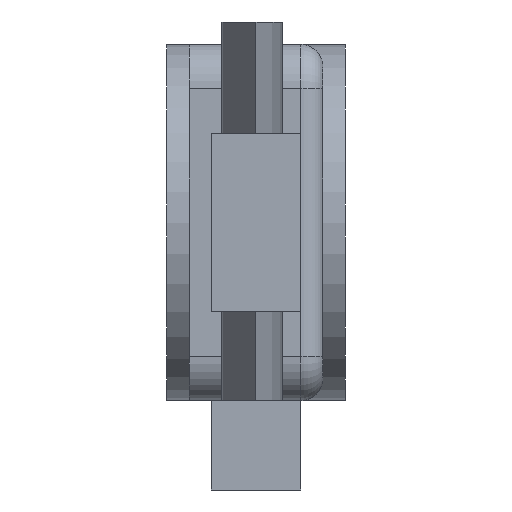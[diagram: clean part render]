
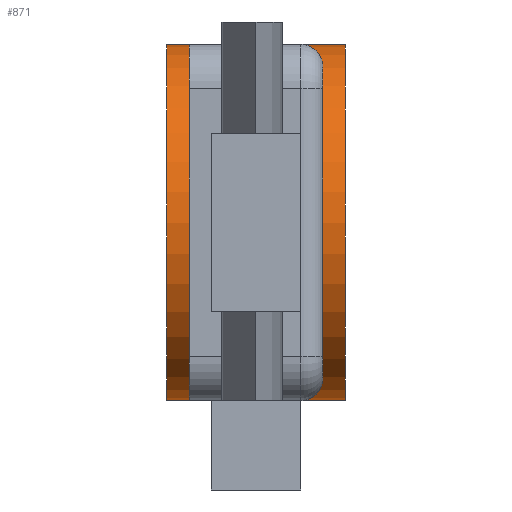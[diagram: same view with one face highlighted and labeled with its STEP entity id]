
A CAD part, left-side view. The second image highlights one B-rep face of the part: STEP entity #871.
In plain terms, the highlighted cylindrical face has radius 40 mm (diameter 80 mm), a partial arc.
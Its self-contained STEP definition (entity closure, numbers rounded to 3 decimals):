
#16 = DIRECTION ( 'NONE',  ( 0., 0., 1. ) ) ;
#65 = DIRECTION ( 'NONE',  ( 0., 1., 0. ) ) ;
#76 = ORIENTED_EDGE ( 'NONE', *, *, #341, .T. ) ;
#77 = DIRECTION ( 'NONE',  ( 0., 1., 0. ) ) ;
#80 = EDGE_LOOP ( 'NONE', ( #173, #856, #875, #76 ) ) ;
#88 = EDGE_CURVE ( 'NONE', #324, #394, #703, .T. ) ;
#151 = CARTESIAN_POINT ( 'NONE',  ( 500., -20., 40. ) ) ;
#161 = CARTESIAN_POINT ( 'NONE',  ( 500., -20., 40. ) ) ;
#173 = ORIENTED_EDGE ( 'NONE', *, *, #711, .F. ) ;
#223 = VERTEX_POINT ( 'NONE', #1008 ) ;
#258 = CARTESIAN_POINT ( 'NONE',  ( 500., -20., 0. ) ) ;
#302 = EDGE_CURVE ( 'NONE', #324, #223, #940, .T. ) ;
#324 = VERTEX_POINT ( 'NONE', #374 ) ;
#339 = AXIS2_PLACEMENT_3D ( 'NONE', #411, #710, #16 ) ;
#341 = EDGE_CURVE ( 'NONE', #394, #624, #850, .T. ) ;
#342 = DIRECTION ( 'NONE',  ( 0., 0., 1. ) ) ;
#353 = CIRCLE ( 'NONE', #814, 40. ) ;
#374 = CARTESIAN_POINT ( 'NONE',  ( 500., -20., -40. ) ) ;
#394 = VERTEX_POINT ( 'NONE', #161 ) ;
#411 = CARTESIAN_POINT ( 'NONE',  ( 500., -20., 0. ) ) ;
#457 = DIRECTION ( 'NONE',  ( 0., 0., 1. ) ) ;
#462 = CARTESIAN_POINT ( 'NONE',  ( 500., -20., -40. ) ) ;
#477 = CYLINDRICAL_SURFACE ( 'NONE', #339, 40. ) ;
#540 = VECTOR ( 'NONE', #65, 1000. ) ;
#619 = DIRECTION ( 'NONE',  ( 0., 1., 0. ) ) ;
#621 = CARTESIAN_POINT ( 'NONE',  ( 500., 20., 40. ) ) ;
#624 = VERTEX_POINT ( 'NONE', #621 ) ;
#642 = VECTOR ( 'NONE', #619, 1000. ) ;
#703 = CIRCLE ( 'NONE', #895, 40. ) ;
#710 = DIRECTION ( 'NONE',  ( 0., 1., 0. ) ) ;
#711 = EDGE_CURVE ( 'NONE', #223, #624, #353, .T. ) ;
#787 = CARTESIAN_POINT ( 'NONE',  ( 500., 20., 0. ) ) ;
#806 = FACE_OUTER_BOUND ( 'NONE', #80, .T. ) ;
#814 = AXIS2_PLACEMENT_3D ( 'NONE', #787, #77, #457 ) ;
#850 = LINE ( 'NONE', #151, #540 ) ;
#856 = ORIENTED_EDGE ( 'NONE', *, *, #302, .F. ) ;
#871 = ADVANCED_FACE ( 'NONE', ( #806 ), #477, .T. ) ;
#875 = ORIENTED_EDGE ( 'NONE', *, *, #88, .T. ) ;
#895 = AXIS2_PLACEMENT_3D ( 'NONE', #258, #975, #342 ) ;
#940 = LINE ( 'NONE', #462, #642 ) ;
#975 = DIRECTION ( 'NONE',  ( 0., 1., 0. ) ) ;
#1008 = CARTESIAN_POINT ( 'NONE',  ( 500., 20., -40. ) ) ;
